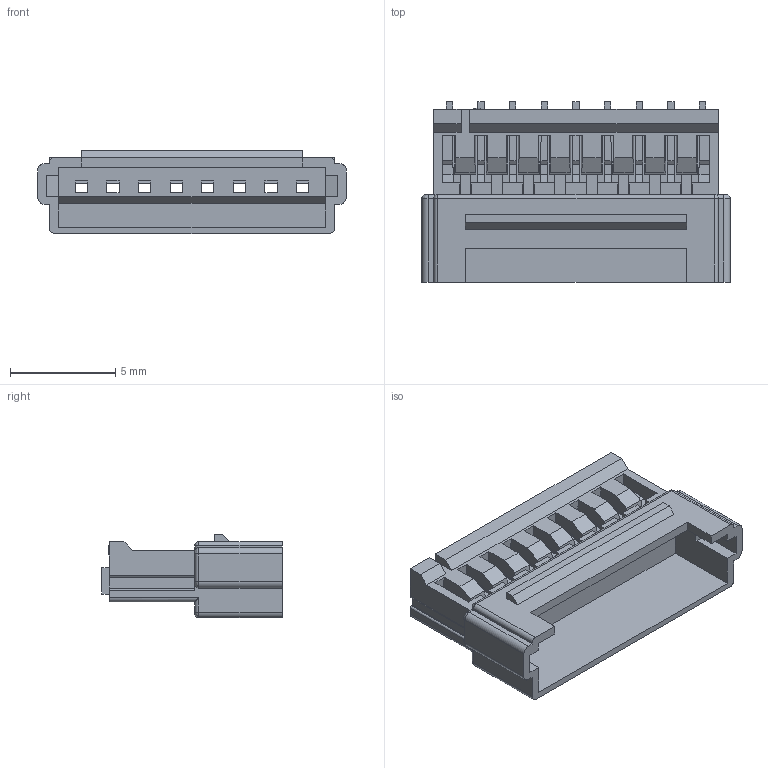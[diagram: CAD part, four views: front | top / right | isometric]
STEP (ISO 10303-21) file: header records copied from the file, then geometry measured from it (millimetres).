
FILE_DESCRIPTION (( 'STEP AP203' ), '1' );
FILE_NAME ('GT-A1501HF1-108W01.STEP', '2025-12-27T09:09:01', ( '' ), ( '' ), 'SwSTEP 2.0', 'SolidWorks 2020', '' );
FILE_SCHEMA (( 'CONFIG_CONTROL_DESIGN' ));
Length unit declared in the file: millimetre
Products named in the file (1): GT-A1501HF1-108W01
Bounding box: 14.63 x 8.55 x 3.95 mm (x, y, z)
Volume: 151.8 mm3; surface area: 702.6 mm2
Topology: 1 solids, 1 shells, 712 faces, 1980 edges, 1268 vertices
Faces by surface type: plane 607, bspline 77, cylinder 26, sphere 2
Entity records: 25959 total; most frequent: CARTESIAN_POINT 8304, ORIENTED_EDGE 3956, DIRECTION 3089, EDGE_CURVE 1978, LINE 1709, VECTOR 1709, VERTEX_POINT 1268, EDGE_LOOP 744
